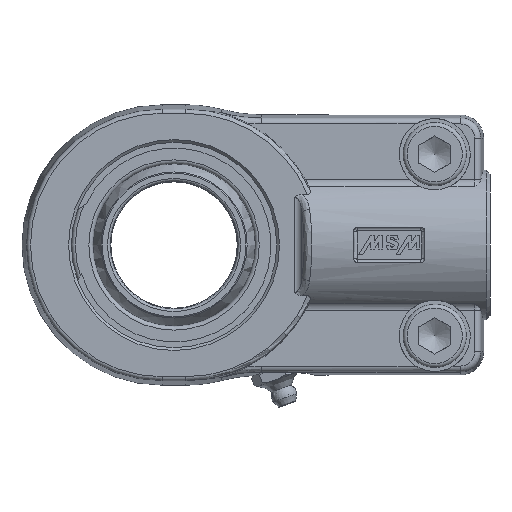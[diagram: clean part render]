
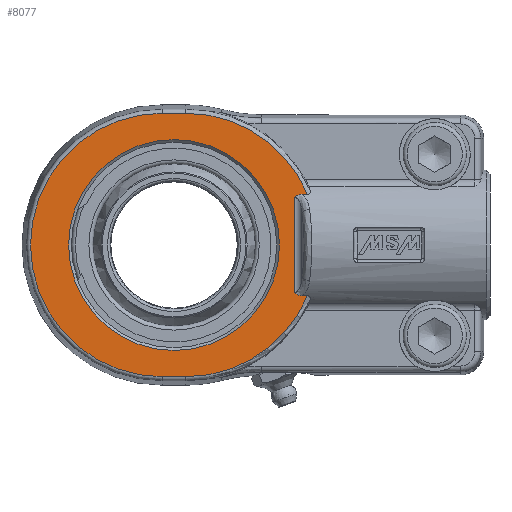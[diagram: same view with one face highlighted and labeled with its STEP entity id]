
A CAD part, left-side view. The second image highlights one B-rep face of the part: STEP entity #8077.
In plain terms, the highlighted planar face has unit normal (-1, 0, 0) as drawn and (0, 0, 1) by its records, which use the part's own axes.
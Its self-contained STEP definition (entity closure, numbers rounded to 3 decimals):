
#4032=CARTESIAN_POINT('',(12.845,-33.787,14.));
#4033=VERTEX_POINT('',#4032);
#4049=CARTESIAN_POINT('',(12.845,-32.449,14.));
#4050=VERTEX_POINT('',#4049);
#4051=CARTESIAN_POINT('',(12.845,-32.449,14.));
#4052=DIRECTION('',(0.,-1.0,0.));
#4053=VECTOR('',#4052,1.338);
#4054=LINE('',#4051,#4053);
#4055=EDGE_CURVE('',#4050,#4033,#4054,.T.);
#4079=CARTESIAN_POINT('',(-12.845,-32.449,14.));
#4080=VERTEX_POINT('',#4079);
#4094=CARTESIAN_POINT('',(-12.845,-33.787,14.));
#4095=VERTEX_POINT('',#4094);
#4096=CARTESIAN_POINT('',(-12.845,-33.787,14.));
#4097=DIRECTION('',(0.,1.0,0.));
#4098=VECTOR('',#4097,1.338);
#4099=LINE('',#4096,#4098);
#4100=EDGE_CURVE('',#4095,#4080,#4099,.T.);
#4456=CARTESIAN_POINT('',(0.0,26.7,14.));
#4457=VERTEX_POINT('',#4456);
#4458=CARTESIAN_POINT('',(0.0,0.0,14.));
#4459=DIRECTION('',(0.0,0.0,-1.0));
#4460=DIRECTION('',(0.0,1.0,0.0));
#4461=AXIS2_PLACEMENT_3D('',#4458,#4459,#4460);
#4462=CIRCLE('',#4461,26.7);
#4463=EDGE_CURVE('',#4457,#4457,#4462,.T.);
#7883=CARTESIAN_POINT('',(-33.359,-3.,14.));
#7884=VERTEX_POINT('',#7883);
#7902=CARTESIAN_POINT('',(0.0,-3.,14.));
#7903=DIRECTION('',(0.0,0.0,-1.0));
#7904=DIRECTION('',(-0.829,-0.559,0.0));
#7905=AXIS2_PLACEMENT_3D('',#7902,#7903,#7904);
#7906=CIRCLE('',#7905,33.359);
#7907=EDGE_CURVE('',#4095,#7884,#7906,.T.);
#7917=CARTESIAN_POINT('',(-33.359,3.,14.));
#7918=VERTEX_POINT('',#7917);
#7933=CARTESIAN_POINT('',(-33.359,-3.,14.));
#7934=DIRECTION('',(0.0,1.0,0.0));
#7935=VECTOR('',#7934,6.);
#7936=LINE('',#7933,#7935);
#7937=EDGE_CURVE('',#7884,#7918,#7936,.T.);
#7947=CARTESIAN_POINT('',(33.359,3.,14.));
#7948=VERTEX_POINT('',#7947);
#7958=CARTESIAN_POINT('',(0.,3.,14.));
#7959=DIRECTION('',(0.0,0.0,-1.0));
#7960=DIRECTION('',(0.0,1.0,0.0));
#7961=AXIS2_PLACEMENT_3D('',#7958,#7959,#7960);
#7962=CIRCLE('',#7961,33.359);
#7963=EDGE_CURVE('',#7918,#7948,#7962,.T.);
#7973=CARTESIAN_POINT('',(33.359,-3.,14.));
#7974=VERTEX_POINT('',#7973);
#7991=CARTESIAN_POINT('',(33.359,3.,14.));
#7992=DIRECTION('',(0.0,-1.0,0.0));
#7993=VECTOR('',#7992,6.);
#7994=LINE('',#7991,#7993);
#7995=EDGE_CURVE('',#7948,#7974,#7994,.T.);
#8014=CARTESIAN_POINT('',(0.0,-3.,14.));
#8015=DIRECTION('',(0.0,0.0,-1.0));
#8016=DIRECTION('',(0.829,-0.559,0.0));
#8017=AXIS2_PLACEMENT_3D('',#8014,#8015,#8016);
#8018=CIRCLE('',#8017,33.359);
#8019=EDGE_CURVE('',#7974,#4033,#8018,.T.);
#8024=CARTESIAN_POINT('',(0.,0.0,14.));
#8025=DIRECTION('',(0.0,0.0,1.0));
#8026=DIRECTION('',(1.0,0.0,0.0));
#8027=AXIS2_PLACEMENT_3D('',#8024,#8025,#8026);
#8028=PLANE('',#8027);
#8029=ORIENTED_EDGE('',*,*,#8019,.F.);
#8030=ORIENTED_EDGE('',*,*,#7995,.F.);
#8031=ORIENTED_EDGE('',*,*,#7963,.F.);
#8032=ORIENTED_EDGE('',*,*,#7937,.F.);
#8033=ORIENTED_EDGE('',*,*,#7907,.F.);
#8034=ORIENTED_EDGE('',*,*,#4100,.T.);
#8035=CARTESIAN_POINT('',(-12.042,-30.465,14.));
#8036=VERTEX_POINT('',#8035);
#8037=CARTESIAN_POINT('',(-12.845,-32.449,14.0));
#8038=CARTESIAN_POINT('',(-12.845,-32.375,14.0));
#8039=CARTESIAN_POINT('',(-12.843,-32.302,14.));
#8040=CARTESIAN_POINT('',(-12.811,-31.874,14.));
#8041=CARTESIAN_POINT('',(-12.722,-31.527,14.));
#8042=CARTESIAN_POINT('',(-12.465,-30.993,14.));
#8043=CARTESIAN_POINT('',(-12.308,-30.733,14.));
#8044=CARTESIAN_POINT('',(-12.046,-30.47,14.));
#8045=CARTESIAN_POINT('',(-12.044,-30.467,14.));
#8046=CARTESIAN_POINT('',(-12.042,-30.465,14.));
#8047=B_SPLINE_CURVE_WITH_KNOTS('',3,(#8037,#8038,#8039,#8040,#8041,#8042,#8043,#8044,#8045,#8046),.UNSPECIFIED.,.F.,.U.,(4,2,2,2,4),(0.0,0.022,0.129,0.2,0.2),.UNSPECIFIED.);
#8048=EDGE_CURVE('',#8036,#4080,#8047,.F.);
#8049=ORIENTED_EDGE('',*,*,#8048,.F.);
#8050=CARTESIAN_POINT('',(12.042,-30.465,14.));
#8051=VERTEX_POINT('',#8050);
#8052=CARTESIAN_POINT('',(12.042,-30.465,14.));
#8053=DIRECTION('',(-1.0,0.0,0.0));
#8054=VECTOR('',#8053,24.083);
#8055=LINE('',#8052,#8054);
#8056=EDGE_CURVE('',#8051,#8036,#8055,.T.);
#8057=ORIENTED_EDGE('',*,*,#8056,.F.);
#8058=CARTESIAN_POINT('',(12.042,-30.465,14.));
#8059=CARTESIAN_POINT('',(12.044,-30.467,14.));
#8060=CARTESIAN_POINT('',(12.046,-30.47,14.0));
#8061=CARTESIAN_POINT('',(12.179,-30.604,14.0));
#8062=CARTESIAN_POINT('',(12.296,-30.747,14.0));
#8063=CARTESIAN_POINT('',(12.498,-31.057,14.0));
#8064=CARTESIAN_POINT('',(12.582,-31.221,14.));
#8065=CARTESIAN_POINT('',(12.781,-31.729,14.));
#8066=CARTESIAN_POINT('',(12.845,-32.087,14.));
#8067=CARTESIAN_POINT('',(12.845,-32.449,14.));
#8068=B_SPLINE_CURVE_WITH_KNOTS('',3,(#8058,#8059,#8060,#8061,#8062,#8063,#8064,#8065,#8066,#8067),.UNSPECIFIED.,.F.,.U.,(4,2,2,2,4),(-0.001,0.0,0.056,0.111,0.22),.UNSPECIFIED.);
#8069=EDGE_CURVE('',#4050,#8051,#8068,.F.);
#8070=ORIENTED_EDGE('',*,*,#8069,.F.);
#8071=ORIENTED_EDGE('',*,*,#4055,.T.);
#8072=EDGE_LOOP('',(#8029,#8030,#8031,#8032,#8033,#8034,#8049,#8057,#8070,#8071));
#8073=FACE_OUTER_BOUND('',#8072,.T.);
#8074=ORIENTED_EDGE('',*,*,#4463,.T.);
#8075=EDGE_LOOP('',(#8074));
#8076=FACE_BOUND('',#8075,.T.);
#8077=ADVANCED_FACE('',(#8073,#8076),#8028,.T.);
